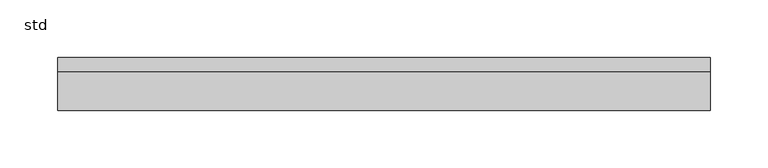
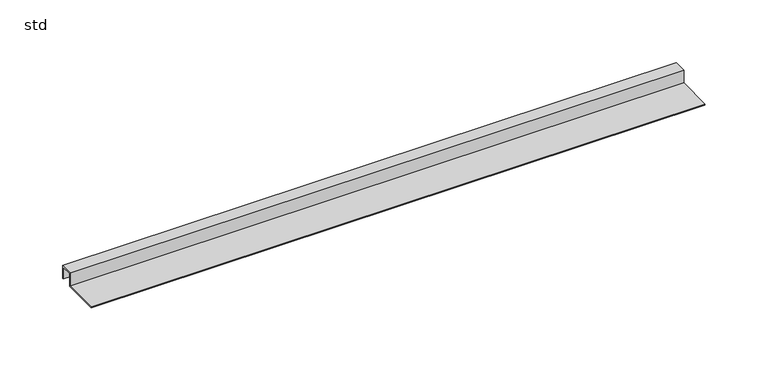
"""IFC4 building model written with IfcOpenShell, lengths in millimetres: sanitary terminal geometry, ZZZ_do not use_PF_ST_showerstep_ACO : std."""

import ifcopenshell
import ifcopenshell.guid

model = None  # the IFC model being written
_history = None  # IfcOwnerHistory: only IFC2X3 demands one
_inside = {}  # id of a spatial element -> (the spatial element, [elements in it])
_under = {}  # id of a project, library or spatial element -> (it, [spatial elements below it])
_declared = {}  # id of a project -> (the project, [libraries it declares])
_typed = {}  # id of a type object -> (the type object, [elements of that type])
_made_of = {}  # id of a material, layer set ... -> (it, [elements and type objects made of it])


def new_model(schema):
    """Start an empty IFC model of exactly this schema.

    Asked for "IFC4X3", IfcOpenShell would pick the latest addendum, in which some entities
    have other attributes; the version numbers below select the first issue.
    IFC2X3 requires an IfcOwnerHistory on every rooted entity: one is made here for all.
    """
    global model, _history
    if schema == "IFC4X3":
        model = ifcopenshell.file(schema_version=(4, 3, 0, 0))
    else:
        model = ifcopenshell.file(schema=schema)
    _inside.clear()
    _under.clear()
    _declared.clear()
    _typed.clear()
    _made_of.clear()
    _history = None
    if model.schema == "IFC2X3":
        org = make("IfcOrganization", Name="unknown")
        user = make(
            "IfcPersonAndOrganization",
            ThePerson=make("IfcPerson", FamilyName="unknown"),
            TheOrganization=org,
        )
        app = make(
            "IfcApplication",
            ApplicationDeveloper=org,
            Version="unknown",
            ApplicationFullName="unknown",
            ApplicationIdentifier="unknown",
        )
        _history = make(
            "IfcOwnerHistory",
            OwningUser=user,
            OwningApplication=app,
            ChangeAction="ADDED",
            CreationDate=0,
        )
    return model


def make(cls, **values):
    """One entity of the class cls with the attributes given. An attribute that is None is left unset."""
    return model.create_entity(
        cls, **{name: value for name, value in values.items() if value is not None}
    )


def rooted(cls, **values):
    """An entity with a GlobalId (a new one), such as an element, a storey or a relation."""
    return make(cls, GlobalId=ifcopenshell.guid.new(), OwnerHistory=_history, **values)


def si_unit(unit_type, name, prefix=None):
    """IfcSIUnit, for example si_unit("LENGTHUNIT", "METRE", prefix="MILLI")."""
    return make("IfcSIUnit", UnitType=unit_type, Prefix=prefix, Name=name)


def assignment(units):
    """IfcUnitAssignment: the units of a project."""
    return None if units is None else make("IfcUnitAssignment", Units=units)


def point(xyz):
    """IfcCartesianPoint."""
    return None if xyz is None else make("IfcCartesianPoint", Coordinates=xyz)


def direction(xyz):
    """IfcDirection."""
    return None if xyz is None else make("IfcDirection", DirectionRatios=xyz)


def frame(location, z_axis=None, x_axis=None):
    """IfcAxis2Placement3D, a coordinate frame: its origin and axes. An axis left out is left unset."""
    return make(
        "IfcAxis2Placement3D",
        Location=point(location),
        Axis=direction(z_axis),
        RefDirection=direction(x_axis),
    )


def origin():
    """The frame at (0, 0, 0) with its axes left unset."""
    return frame((0.0, 0.0, 0.0))


def place(relative_to, where):
    """IfcLocalPlacement: puts the frame where relative to a parent placement (None: the world)."""
    return make(
        "IfcLocalPlacement", PlacementRelTo=relative_to, RelativePlacement=where
    )


def context(
    kind, dimensions, precision=None, world=None, true_north=None, identifier=None
):
    """IfcGeometricRepresentationContext, for example the 3D "Model" context."""
    return make(
        "IfcGeometricRepresentationContext",
        ContextIdentifier=identifier,
        ContextType=kind,
        CoordinateSpaceDimension=dimensions,
        Precision=precision,
        WorldCoordinateSystem=world,
        TrueNorth=true_north,
    )


def project(units=None, contexts=None):
    """IfcProject with its units and contexts."""
    return rooted(
        "IfcProject",
        Name="project",
        RepresentationContexts=contexts,
        UnitsInContext=assignment(units),
    )


def spatial(cls, under=None, at=None, **own):
    """A site, building, storey or space (cls), placed at a placement, below another one or the project."""
    s = rooted(cls, ObjectPlacement=at, **own)
    if under is not None:
        _under.setdefault(under.id(), (under, []))[1].append(s)
    return s


def faces_of(points, faces, orient=None, outer=None):
    """IfcFace entities. A face is a list of loops; a loop is a list of indices into points, from 0.

    orient and outer hold one flag for each loop. By default every Orientation is true, the
    first loop of a face is its IfcFaceOuterBound and the others are IfcFaceBound.
    """
    made = []
    for i, loops in enumerate(faces):
        bounds = []
        for j, loop in enumerate(loops):
            is_outer = j == 0 if outer is None else outer[i][j]
            bounds.append(
                make(
                    "IfcFaceOuterBound" if is_outer else "IfcFaceBound",
                    Bound=make("IfcPolyLoop", Polygon=[points[k] for k in loop]),
                    Orientation=True if orient is None else orient[i][j],
                )
            )
        made.append(make("IfcFace", Bounds=bounds))
    return made


def faceted_brep(points, faces, orient=None, outer=None, voids=None):
    """IfcFacetedBrep: a solid bounded by flat faces; with voids (closed shells), ...WithVoids."""
    shared = [point(p) for p in points]
    hull = make("IfcClosedShell", CfsFaces=faces_of(shared, faces, orient, outer))
    if voids is None:
        return make("IfcFacetedBrep", Outer=hull)
    return make(
        "IfcFacetedBrepWithVoids",
        Outer=hull,
        Voids=[
            make(cls, CfsFaces=faces_of(shared, fs, o, b)) for cls, fs, o, b in voids
        ],
    )


def shape(context_of_items, identifier, shape_type, items):
    """IfcShapeRepresentation: the items that make up one representation, for example the "Body"."""
    return make(
        "IfcShapeRepresentation",
        ContextOfItems=context_of_items,
        RepresentationIdentifier=identifier,
        RepresentationType=shape_type,
        Items=items,
    )


def source(mapping_origin, context_of_items, identifier, shape_type, items):
    """IfcRepresentationMap: a shape defined once, which mapped items show again and again."""
    return make(
        "IfcRepresentationMap",
        MappingOrigin=mapping_origin,
        MappedRepresentation=shape(context_of_items, identifier, shape_type, items),
    )


def transform(
    local_origin,
    x_axis=None,
    y_axis=None,
    z_axis=None,
    scale=None,
    scale2=None,
    scale3=None,
    uniform=True,
):
    """IfcCartesianTransformationOperator3D, or its non-uniform kind. x_axis, y_axis, z_axis: its Axis1, 2, 3."""
    if uniform:
        return make(
            "IfcCartesianTransformationOperator3D",
            Axis1=direction(x_axis),
            Axis2=direction(y_axis),
            LocalOrigin=point(local_origin),
            Scale=scale,
            Axis3=direction(z_axis),
        )
    return make(
        "IfcCartesianTransformationOperator3DnonUniform",
        Axis1=direction(x_axis),
        Axis2=direction(y_axis),
        LocalOrigin=point(local_origin),
        Scale=scale,
        Axis3=direction(z_axis),
        Scale2=scale2,
        Scale3=scale3,
    )


def mapped(mapping_source, mapping_target):
    """IfcMappedItem: shows the shape of a source again, moved by a transform."""
    return make(
        "IfcMappedItem", MappingSource=mapping_source, MappingTarget=mapping_target
    )


def made_of(thing, what):
    """Note that an element or type object is made of a material, layer set ...; save() writes the relation."""
    if what is not None:
        _made_of.setdefault(what.id(), (what, []))[1].append(thing)
    return thing


def element(
    cls,
    number,
    at=None,
    inside=None,
    cuts=None,
    type_object=None,
    material=None,
    context=None,
    identifier="Body",
    shape_type=None,
    held_by="IfcProductDefinitionShape",
    body=None,
    shapes=None,
    **own,
):
    """One element of the class cls, such as IfcWall. Its Tag is "e" and its number.

    at: its placement. inside: the storey or other place that contains it. cuts: it is an
    opening in that element (IfcRelVoidsElement). A single representation is given by context,
    identifier, shape_type and body (its items); several are given by shapes. held_by: the class
    of the entity that holds the representations. save() writes the other relations.
    """
    e = rooted(cls, Tag="e%d" % number, ObjectPlacement=at, **own)
    if body is not None:
        shapes = [shape(context, identifier, shape_type, body)]
    if shapes is not None:
        e.Representation = make(held_by, Representations=shapes)
    if inside is not None:
        _inside.setdefault(inside.id(), (inside, []))[1].append(e)
    if cuts is not None:
        rooted(
            "IfcRelVoidsElement", RelatingBuildingElement=cuts, RelatedOpeningElement=e
        )
    if type_object is not None:
        _typed.setdefault(type_object.id(), (type_object, []))[1].append(e)
    return made_of(e, material)


def aggregate(whole, parts):
    """IfcRelAggregates: a whole, such as a stair, and the parts it consists of."""
    return rooted("IfcRelAggregates", RelatingObject=whole, RelatedObjects=parts)


def save(model, path):
    """Write the relations noted so far, then the file.

    IfcRelAggregates (storeys below a building ...), IfcRelContainedInSpatialStructure (elements
    in a storey), IfcRelDefinesByType, IfcRelAssociatesMaterial and IfcRelDeclares: one each for
    every whole, place, type object, material and project.
    """
    for whole, parts in _under.values():
        aggregate(whole, parts)
    for where, things in _inside.values():
        rooted(
            "IfcRelContainedInSpatialStructure",
            RelatedElements=things,
            RelatingStructure=where,
        )
    for kind, things in _typed.values():
        rooted("IfcRelDefinesByType", RelatedObjects=things, RelatingType=kind)
    for what, things in _made_of.values():
        rooted("IfcRelAssociatesMaterial", RelatedObjects=things, RelatingMaterial=what)
    for by, libraries in _declared.values():
        rooted("IfcRelDeclares", RelatingContext=by, RelatedDefinitions=libraries)
    model.write(path)


def std_d389b9e6(model_context):
    return source(origin(), model_context, "Body", "Brep", [
        faceted_brep([(0.0, -1.0, -12.5), (0.0, -1.0, -1.0), (0.0, -11.0004219, -1.0), (0.0, -11.0004219, -13.5), (0.0, -46.0004219, -13.5), (0.0, -46.0004219, -12.5), (0.0, -12.0076915, -12.5), (0.0, -12.0076915, 0.0), (0.0, 0.0, 0.0), (0.0, 0.0, -12.5), (566.0, 0.0, -22.5050505), (566.0, -1.0, -22.5050505), (566.0, 0.0, 0.0), (566.0, -12.0076915, 0.0), (566.0, -12.0076915, -12.5), (566.0, -46.0004219, -12.5), (566.0, -46.0004219, -13.5), (566.0, -11.0004219, -13.5), (566.0, -11.0004219, -1.0), (566.0, -1.0, -1.0)], [[[0, 1, 2, 3, 4, 5, 6, 7, 8, 9]], [[0, 9, 10, 11]], [[9, 8, 12, 10]], [[8, 7, 13, 12]], [[7, 6, 14, 13]], [[6, 5, 15, 14]], [[5, 4, 16, 15]], [[4, 3, 17, 16]], [[3, 2, 18, 17]], [[2, 1, 19, 18]], [[1, 0, 11, 19]], [[11, 10, 12, 13, 14, 15, 16, 17, 18, 19]]]),
    ])


if __name__ == "__main__":
    model = new_model("IFC4")
    model_context = context("Model", 3, world=origin())
    ifc_project = project(units=[si_unit("LENGTHUNIT", "METRE", prefix="MILLI")], contexts=[model_context])
    site = spatial("IfcSite", under=ifc_project)
    building = spatial("IfcBuilding", under=site)
    placement = place(None, origin())
    std_shape = std_d389b9e6(model_context)
    element("IfcSanitaryTerminal", 1, ObjectType="ZZZ_do not use_PF_ST_showerstep_ACO : std", at=placement, inside=building, context=model_context, shape_type="MappedRepresentation", body=[
        mapped(std_shape, transform((0.0, 0.0, 0.0), x_axis=(1.0, 0.0, 0.0), y_axis=(0.0, 1.0, 0.0), z_axis=(0.0, 0.0, 1.0))),
    ])
    save(model, "model.ifc")
